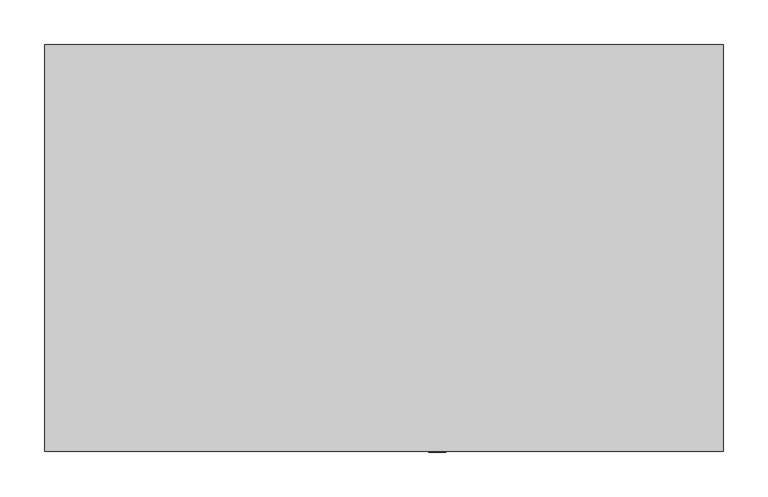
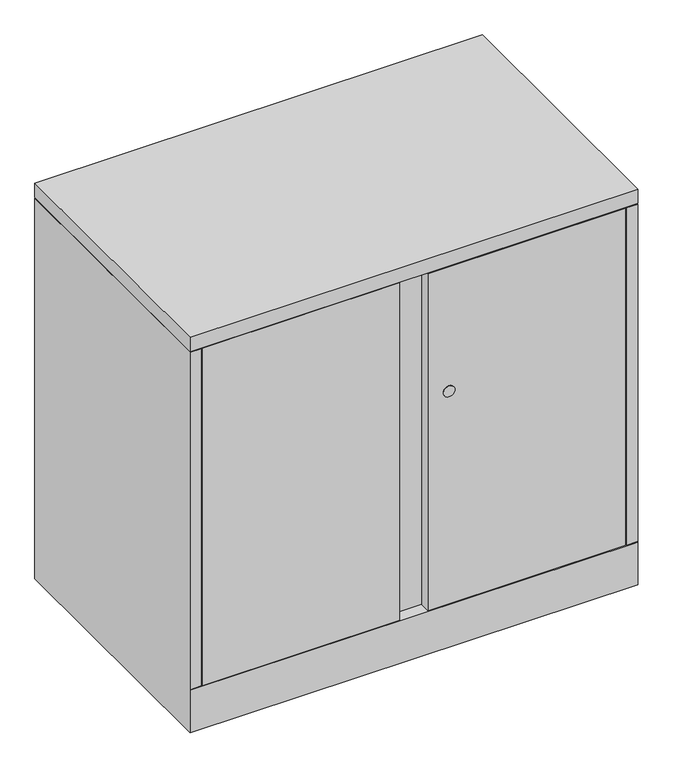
"""IFC4 building model written with IfcOpenShell, lengths in millimetres: furniture geometry, Steelcase - Universal Storage - Cabinet - Storage - 28H - Flush Steel : 18D x 30W."""

from ifc_helpers import new_model, si_unit, point, frame, frame_2d, origin, place, context, project, spatial, polyline, circle_curve, trimmed, segment, composite_curve, outline, extrude, faceted_brep, source, transform, mapped, element, save


def furniture_d8b2ec82(model_context):
    return source(origin(), model_context, "Body", "SolidModel", [
        extrude(outline(polyline([(762.0, 0.0), (762.0, -457.2), (0.0, -457.2), (0.0, 0.0), (762.0, 0.0)])), frame((0.0, 0.0, 685.7999516), z_axis=(0.0, 0.0, 1.0), x_axis=(1.0, 0.0, 0.0)), (0.0, 0.0, 1.0), 25.4),
        extrude(outline(composite_curve([segment(trimmed(circle_curve(frame_2d((460.3889832, 440.8109835)), 9.7167829), [point((460.3889832, 450.5277664))], [point((460.3889832, 431.0942006))], False, "CARTESIAN"), True, "CONTINUOUS"), segment(trimmed(circle_curve(frame_2d((460.3889832, 440.8109835)), 9.7167829), [point((460.3889832, 431.0942006))], [point((460.3889832, 450.5277664))], False, "CARTESIAN"), True, "CONTINUOUS")], self_intersect=False)), frame((0.0, -457.8695275, 0.0), z_axis=(0.0, 1.0, 0.0), x_axis=(0.0, 0.0, 1.0)), (0.0, 0.0, 1.0), 0.6695275),
        extrude(outline(polyline([(20.8280006, -431.673866), (741.172, -431.673866), (741.172, -457.2), (405.13, -457.2), (405.13, -438.0238781), (356.87, -438.0238781), (356.87, -457.2), (20.8280006, -457.2), (20.8280006, -431.673866)])), frame((0.0, 0.0, 77.724), z_axis=(0.0, 0.0, 1.0), x_axis=(1.0, 0.0, 0.0)), (0.0, 0.0, 1.0), 606.552),
        faceted_brep([(762.0, 0.0, 0.0), (762.0, -457.2, 0.0), (0.0, -457.2, 0.0), (0.0, 0.0, 0.0), (0.0, 0.0, 684.276), (762.0, 0.0, 684.276), (0.0, -457.2, 76.2), (0.0, -457.2, 77.724), (0.0, -457.2, 684.276), (762.0, -457.2, 76.2), (762.0, -457.2, 684.276), (762.0, -457.2, 77.724), (736.6000242, -25.4000008, 684.276), (736.6000242, -430.1498674, 684.276), (741.172, -430.1498674, 684.276), (741.172, -431.6738781, 684.276), (742.696, -431.6738781, 684.276), (742.696, -457.2, 684.276), (19.304, -457.2, 684.276), (19.304, -431.673866, 684.276), (20.8280006, -431.673866, 684.276), (20.8280006, -430.1498674, 684.276), (25.4000008, -430.1498674, 684.276), (25.4000008, -25.4000008, 684.276), (19.304, -457.2, 77.724), (19.304, -437.896, 77.724), (742.696, -457.2, 77.724), (742.696, -437.7698418, 77.724), (736.6000242, -25.4000008, 77.724), (736.6000242, -430.1498674, 77.724), (741.172, -430.1498674, 77.724), (741.172, -431.6738781, 77.724), (742.696, -431.6738781, 77.724), (19.304, -431.673866, 77.724), (20.8280006, -431.673866, 77.724), (20.8280006, -430.1498674, 77.724), (25.4000008, -430.1498674, 77.724), (25.4000008, -25.4000008, 77.724), (25.526134, -431.673866, 77.724), (736.6000242, -431.673866, 77.724)], [[[0, 1, 2, 3]], [[0, 3, 4, 5]], [[4, 3, 2, 6, 7, 8]], [[2, 1, 9, 6]], [[1, 0, 5, 10, 11, 9]], [[12, 13, 14, 15, 16, 17, 10, 5, 4, 8, 18, 19, 20, 21, 22, 23]], [[24, 7, 25]], [[11, 26, 27]], [[13, 12, 28, 29]], [[14, 13, 29, 30]], [[15, 14, 30, 31]], [[16, 15, 31, 32]], [[17, 16, 32, 27, 26]], [[10, 17, 26, 11]], [[18, 8, 7, 24]], [[19, 18, 24, 25, 33]], [[20, 19, 33, 34]], [[21, 20, 34, 35]], [[22, 21, 35, 36]], [[23, 22, 36, 37]], [[12, 23, 37, 28]], [[38, 39, 27, 32, 31, 30, 29, 28, 37, 36, 35, 34, 33, 25]], [[7, 6, 38, 25]], [[39, 38, 6, 9]], [[39, 9, 11, 27]]]),
    ])


if __name__ == "__main__":
    model = new_model("IFC4")
    model_context = context("Model", 3, world=origin())
    ifc_project = project(units=[si_unit("LENGTHUNIT", "METRE", prefix="MILLI")], contexts=[model_context])
    site = spatial("IfcSite", under=ifc_project)
    building = spatial("IfcBuilding", under=site)
    placement = place(None, origin())
    furniture_shape = furniture_d8b2ec82(model_context)
    element("IfcFurniture", 1, ObjectType="Steelcase - Universal Storage - Cabinet - Storage - 28H - Flush Steel : 18D x 30W", at=placement, inside=building, context=model_context, shape_type="MappedRepresentation", body=[
        mapped(furniture_shape, transform((0.0, 0.0, 0.0), x_axis=(1.0, 0.0, 0.0), y_axis=(0.0, 1.0, 0.0), z_axis=(0.0, 0.0, 1.0))),
    ])
    save(model, "model.ifc")
